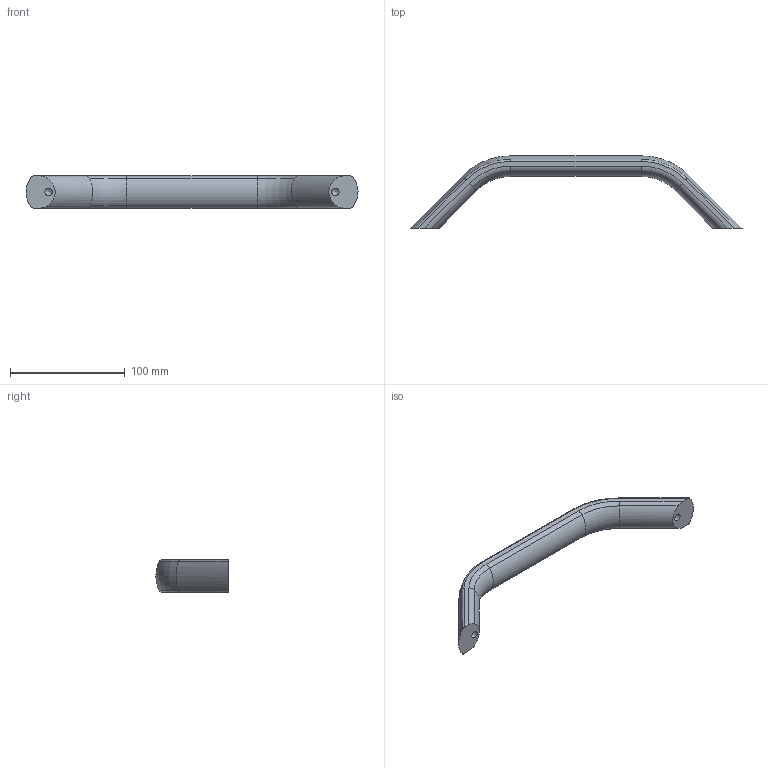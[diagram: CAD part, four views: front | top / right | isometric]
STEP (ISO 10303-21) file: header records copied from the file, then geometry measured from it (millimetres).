
FILE_DESCRIPTION( ( 'STEP AP203' ), '1' );
FILE_NAME( 'C:/Temp/Ganter_Step_05_03_2020/data/1_2/gn_428/gn_428_a/Cabinet U-handle GN 428-AL-28-250-A-EL.stp', '2020-03-05T10:11:28', ( 'License CC BY-ND 4.0' ), ( 'CADENAS' ), ' ', 'PARTsolutions', ' ' );
FILE_SCHEMA( ( 'CONFIG_CONTROL_DESIGN' ) );
Length unit declared in the file: millimetre
Products named in the file (1): _Cabinet U-handle GN 428-AL-28-250-A-EL
Bounding box: 289.43 x 63 x 28 mm (x, y, z)
Volume: 124862.6 mm3; surface area: 24877.8 mm2
Topology: 1 solids, 1 shells, 38 faces, 90 edges, 54 vertices
Faces by surface type: cylinder 20, torus 12, plane 4, cone 2
Full cylindrical faces by diameter (mm): 6.647 x2
Entity records: 1120 total; most frequent: DIRECTION 218, CARTESIAN_POINT 177, ORIENTED_EDGE 168, AXIS2_PLACEMENT_3D 95, EDGE_CURVE 84, VERTEX_POINT 54, CIRCLE 44, EDGE_LOOP 42
